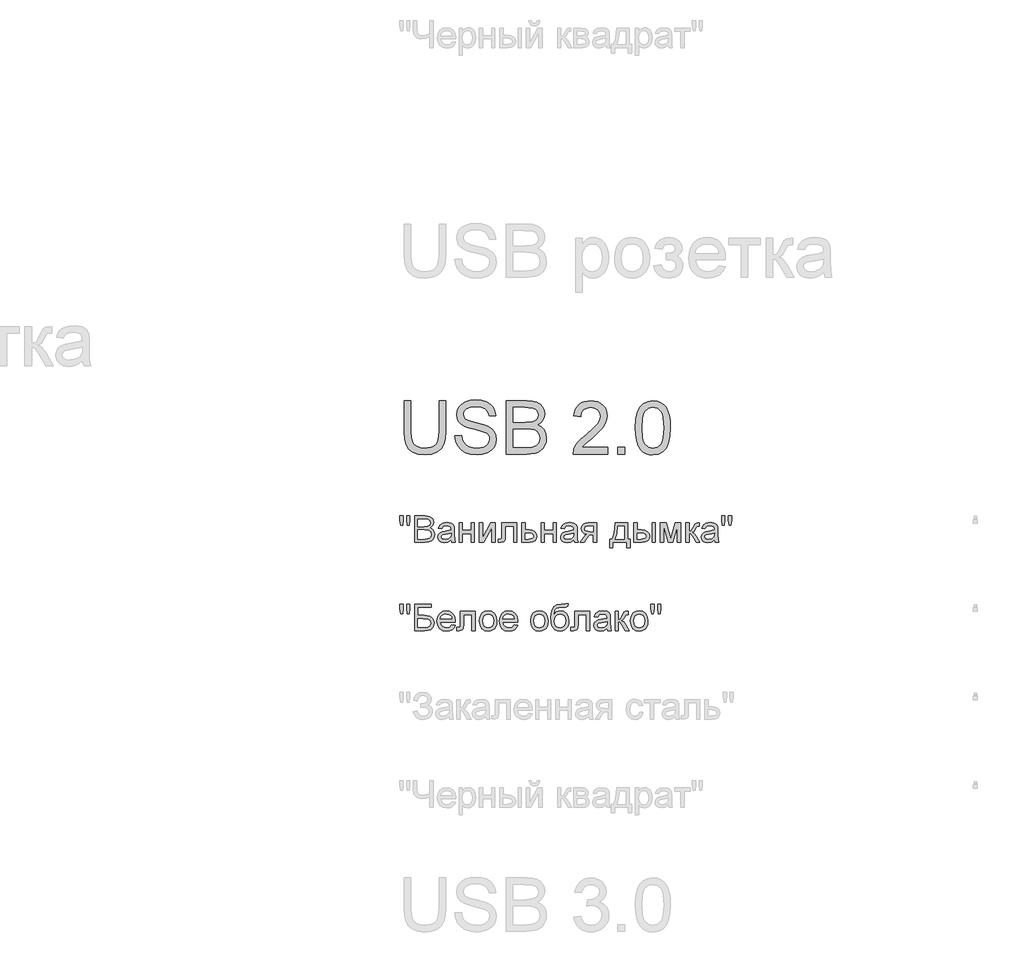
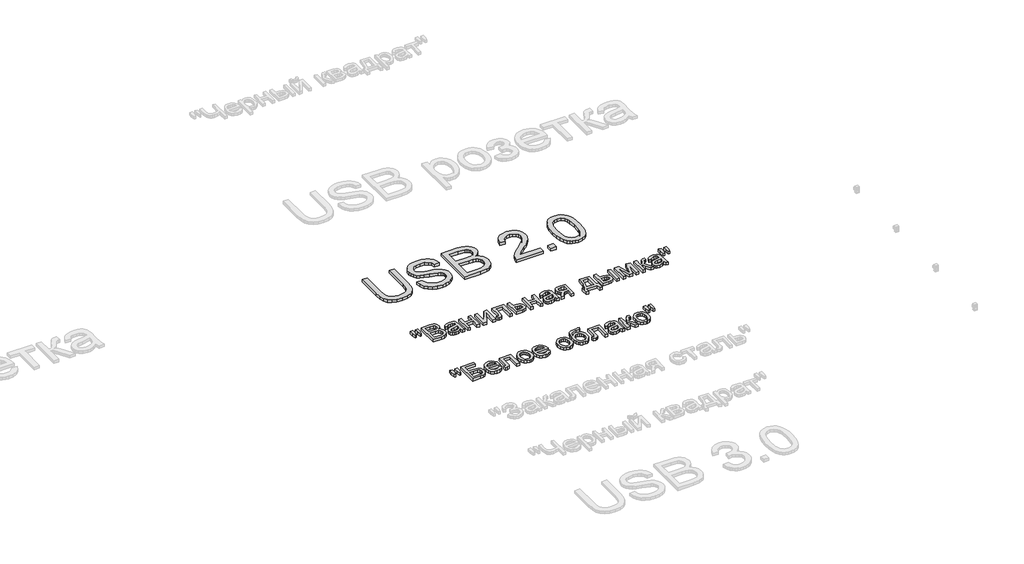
# One storey, part 59 of 168: 3 proxies.
"""IFC4 building model written with IfcOpenShell, lengths in millimetres."""

import ifcopenshell
import ifcopenshell.guid

model = None  # the IFC model being written
_history = None  # IfcOwnerHistory: only IFC2X3 demands one
_inside = {}  # id of a spatial element -> (the spatial element, [elements in it])
_under = {}  # id of a project, library or spatial element -> (it, [spatial elements below it])
_declared = {}  # id of a project -> (the project, [libraries it declares])
_typed = {}  # id of a type object -> (the type object, [elements of that type])
_made_of = {}  # id of a material, layer set ... -> (it, [elements and type objects made of it])


def new_model(schema):
    """Start an empty IFC model of exactly this schema.

    Asked for "IFC4X3", IfcOpenShell would pick the latest addendum, in which some entities
    have other attributes; the version numbers below select the first issue.
    IFC2X3 requires an IfcOwnerHistory on every rooted entity: one is made here for all.
    """
    global model, _history
    if schema == "IFC4X3":
        model = ifcopenshell.file(schema_version=(4, 3, 0, 0))
    else:
        model = ifcopenshell.file(schema=schema)
    _inside.clear()
    _under.clear()
    _declared.clear()
    _typed.clear()
    _made_of.clear()
    _history = None
    if model.schema == "IFC2X3":
        org = make("IfcOrganization", Name="unknown")
        user = make(
            "IfcPersonAndOrganization",
            ThePerson=make("IfcPerson", FamilyName="unknown"),
            TheOrganization=org,
        )
        app = make(
            "IfcApplication",
            ApplicationDeveloper=org,
            Version="unknown",
            ApplicationFullName="unknown",
            ApplicationIdentifier="unknown",
        )
        _history = make(
            "IfcOwnerHistory",
            OwningUser=user,
            OwningApplication=app,
            ChangeAction="ADDED",
            CreationDate=0,
        )
    return model


def make(cls, **values):
    """One entity of the class cls with the attributes given. An attribute that is None is left unset."""
    return model.create_entity(
        cls, **{name: value for name, value in values.items() if value is not None}
    )


def rooted(cls, **values):
    """An entity with a GlobalId (a new one), such as an element, a storey or a relation."""
    return make(cls, GlobalId=ifcopenshell.guid.new(), OwnerHistory=_history, **values)


def si_unit(unit_type, name, prefix=None):
    """IfcSIUnit, for example si_unit("LENGTHUNIT", "METRE", prefix="MILLI")."""
    return make("IfcSIUnit", UnitType=unit_type, Prefix=prefix, Name=name)


def assignment(units):
    """IfcUnitAssignment: the units of a project."""
    return None if units is None else make("IfcUnitAssignment", Units=units)


def point(xyz):
    """IfcCartesianPoint."""
    return None if xyz is None else make("IfcCartesianPoint", Coordinates=xyz)


def direction(xyz):
    """IfcDirection."""
    return None if xyz is None else make("IfcDirection", DirectionRatios=xyz)


def frame(location, z_axis=None, x_axis=None):
    """IfcAxis2Placement3D, a coordinate frame: its origin and axes. An axis left out is left unset."""
    return make(
        "IfcAxis2Placement3D",
        Location=point(location),
        Axis=direction(z_axis),
        RefDirection=direction(x_axis),
    )


def origin():
    """The frame at (0, 0, 0) with its axes left unset."""
    return frame((0.0, 0.0, 0.0))


def origin_with_axes():
    """The frame at (0, 0, 0) with the z axis (0, 0, 1) and the x axis (1, 0, 0) written out."""
    return frame((0.0, 0.0, 0.0), z_axis=(0.0, 0.0, 1.0), x_axis=(1.0, 0.0, 0.0))


def place(relative_to, where):
    """IfcLocalPlacement: puts the frame where relative to a parent placement (None: the world)."""
    return make(
        "IfcLocalPlacement", PlacementRelTo=relative_to, RelativePlacement=where
    )


def context(
    kind, dimensions, precision=None, world=None, true_north=None, identifier=None
):
    """IfcGeometricRepresentationContext, for example the 3D "Model" context."""
    return make(
        "IfcGeometricRepresentationContext",
        ContextIdentifier=identifier,
        ContextType=kind,
        CoordinateSpaceDimension=dimensions,
        Precision=precision,
        WorldCoordinateSystem=world,
        TrueNorth=true_north,
    )


def project(units=None, contexts=None):
    """IfcProject with its units and contexts."""
    return rooted(
        "IfcProject",
        Name="project",
        RepresentationContexts=contexts,
        UnitsInContext=assignment(units),
    )


def spatial(cls, under=None, at=None, **own):
    """A site, building, storey or space (cls), placed at a placement, below another one or the project."""
    s = rooted(cls, ObjectPlacement=at, **own)
    if under is not None:
        _under.setdefault(under.id(), (under, []))[1].append(s)
    return s


def polyline(points):
    """IfcPolyline through the points."""
    return make("IfcPolyline", Points=[point(p) for p in points])


def outline(outer, holes=None, kind="AREA"):
    """IfcArbitraryClosedProfileDef: a profile drawn as a closed curve; with holes, ...WithVoids."""
    if holes is None:
        return make("IfcArbitraryClosedProfileDef", ProfileType=kind, OuterCurve=outer)
    return make(
        "IfcArbitraryProfileDefWithVoids",
        ProfileType=kind,
        OuterCurve=outer,
        InnerCurves=holes,
    )


def extrude(swept, where, along, depth):
    """IfcExtrudedAreaSolid: the profile swept, set in the frame where, extruded along a direction by depth."""
    return make(
        "IfcExtrudedAreaSolid",
        SweptArea=swept,
        Position=where,
        ExtrudedDirection=direction(along),
        Depth=depth,
    )


def shape(context_of_items, identifier, shape_type, items):
    """IfcShapeRepresentation: the items that make up one representation, for example the "Body"."""
    return make(
        "IfcShapeRepresentation",
        ContextOfItems=context_of_items,
        RepresentationIdentifier=identifier,
        RepresentationType=shape_type,
        Items=items,
    )


def made_of(thing, what):
    """Note that an element or type object is made of a material, layer set ...; save() writes the relation."""
    if what is not None:
        _made_of.setdefault(what.id(), (what, []))[1].append(thing)
    return thing


def element(
    cls,
    number,
    at=None,
    inside=None,
    cuts=None,
    type_object=None,
    material=None,
    context=None,
    identifier="Body",
    shape_type=None,
    held_by="IfcProductDefinitionShape",
    body=None,
    shapes=None,
    **own,
):
    """One element of the class cls, such as IfcWall. Its Tag is "e" and its number.

    at: its placement. inside: the storey or other place that contains it. cuts: it is an
    opening in that element (IfcRelVoidsElement). A single representation is given by context,
    identifier, shape_type and body (its items); several are given by shapes. held_by: the class
    of the entity that holds the representations. save() writes the other relations.
    """
    e = rooted(cls, Tag="e%d" % number, ObjectPlacement=at, **own)
    if body is not None:
        shapes = [shape(context, identifier, shape_type, body)]
    if shapes is not None:
        e.Representation = make(held_by, Representations=shapes)
    if inside is not None:
        _inside.setdefault(inside.id(), (inside, []))[1].append(e)
    if cuts is not None:
        rooted(
            "IfcRelVoidsElement", RelatingBuildingElement=cuts, RelatedOpeningElement=e
        )
    if type_object is not None:
        _typed.setdefault(type_object.id(), (type_object, []))[1].append(e)
    return made_of(e, material)


def aggregate(whole, parts):
    """IfcRelAggregates: a whole, such as a stair, and the parts it consists of."""
    return rooted("IfcRelAggregates", RelatingObject=whole, RelatedObjects=parts)


def save(model, path):
    """Write the relations noted so far, then the file.

    IfcRelAggregates (storeys below a building ...), IfcRelContainedInSpatialStructure (elements
    in a storey), IfcRelDefinesByType, IfcRelAssociatesMaterial and IfcRelDeclares: one each for
    every whole, place, type object, material and project.
    """
    for whole, parts in _under.values():
        aggregate(whole, parts)
    for where, things in _inside.values():
        rooted(
            "IfcRelContainedInSpatialStructure",
            RelatedElements=things,
            RelatingStructure=where,
        )
    for kind, things in _typed.values():
        rooted("IfcRelDefinesByType", RelatedObjects=things, RelatingType=kind)
    for what, things in _made_of.values():
        rooted("IfcRelAssociatesMaterial", RelatedObjects=things, RelatingMaterial=what)
    for by, libraries in _declared.values():
        rooted("IfcRelDeclares", RelatingContext=by, RelatedDefinitions=libraries)
    model.write(path)


model = new_model("IFC4")

# Units and contexts
model_context = context("Model", 3, world=origin())
ifc_project = project(units=[si_unit("LENGTHUNIT", "METRE", prefix="MILLI")], contexts=[model_context])

# Site, building, storey
site = spatial("IfcSite", under=ifc_project)
building = spatial("IfcBuilding", under=site)
storey = spatial("IfcBuildingStorey", under=building, Name="Этаж 01", Elevation=0.0)

# Proxies
placement = place(None, origin())
element("IfcBuildingElementProxy", 1, Name="300 мм Arial 2", ObjectType="300 мм Arial 2", at=placement, inside=storey, context=model_context, shape_type="SweptSolid", body=[
    extrude(outline(polyline([(60396.8678623, -46765.4933673), (60434.5389786, -46765.4933673), (60434.5389786, -46939.3543982), (60431.9821987, -46980.069738), (60424.3118591, -47011.4224811), (60409.9828554, -47035.6107222), (60387.4500832, -47054.8325565), (60356.6583602, -47067.3865296), (60317.5525041, -47071.5711873), (60279.3019737, -47067.9291555), (60248.7217828, -47057.0030603), (60225.8027345, -47039.1699805), (60210.5356317, -47014.8069954), (60201.9547842, -46982.1298772), (60199.0945017, -46939.3543982), (60199.0945017, -46765.4933673), (60236.765618, -46765.4933673), (60236.765618, -46938.030023), (60238.623422, -46971.8843636), (60244.1968343, -46995.4564025), (60254.295195, -47011.781166), (60269.7278447, -47023.8936807), (60289.8509899, -47031.3984734), (60314.020837, -47033.900071), (60352.3357467, -47028.9520581), (60366.678546, -47022.7670421), (60377.8115749, -47014.1080196), (60386.1487006, -47001.9311256), (60392.1037904, -46985.1924948), (60396.8678623, -46938.030023), (60396.8678623, -46765.4933673)])), origin_with_axes(), (0.0, 0.0, 1.0), 20.0),
    extrude(outline(polyline([(60486.3367635, -46963.2667279), (60524.0078798, -46963.2667279), (60528.3304932, -46984.1716223), (60536.1479856, -47000.9746324), (60548.3432738, -47014.3103547), (60565.7992744, -47024.8133857), (60587.1364302, -47031.6283996), (60610.9751835, -47033.900071), (60631.9628513, -47032.1802226), (60650.3385569, -47027.0206777), (60665.2285807, -47018.8536974), (60675.7592028, -47008.1115431), (60682.0223938, -46995.7782992), (60684.1101241, -46982.83805), (60682.5466256, -46970.2288947), (60677.8561302, -46959.3303905), (60668.3279865, -46950.0321731), (60652.2515433, -46942.2238778), (60597.4003378, -46927.8396918), (60561.3938876, -46918.3207451), (60538.3552776, -46909.261651), (60519.6024929, -46896.5881163), (60506.3127558, -46881.229043), (60498.3940959, -46863.5155249), (60495.7545426, -46843.7786559), (60499.0194953, -46821.7149332), (60508.8143534, -46801.1411326), (60524.8815995, -46783.703526), (60546.9637163, -46771.0483854), (60573.469614, -46763.3504547), (60602.8082032, -46760.7844777), (60634.5932075, -46763.4700163), (60662.4050864, -46771.526632), (60685.2505583, -46784.7887779), (60702.1363419, -46803.0909072), (60712.8233138, -46825.2925856), (60717.0723509, -46850.253379), (60679.4012346, -46850.253379), (60672.4850531, -46827.7757891), (60658.0640788, -46811.5521931), (60635.5313066, -46801.7297438), (60604.2797311, -46798.4555941), (60572.2923917, -46801.6929556), (60550.3482307, -46811.4050403), (60537.6563018, -46825.6972558), (60533.4256589, -46842.6750099), (60536.4238971, -46857.1511664), (60545.4186119, -46868.7946315), (60566.6821912, -46879.205692), (60606.9284815, -46889.8374817), (60648.4623588, -46899.9358424), (60673.588699, -46908.7466162), (60695.0638105, -46922.4134323), (60710.0458048, -46939.2808218), (60718.8473815, -46959.1648436), (60721.7812404, -46981.8815568), (60718.4059231, -47005.1041078), (60708.2799712, -47026.9471013), (60691.8172519, -47045.7458712), (60669.4316325, -47059.8357516), (60642.5118675, -47068.6373284), (60612.4467114, -47071.5711873), (60575.5389503, -47068.4074021), (60545.1610945, -47058.9160466), (60520.9636563, -47043.0603326), (60502.5971477, -47020.8034719), (60490.8065297, -46993.6905689), (60486.3367635, -46963.2667279)])), origin_with_axes(), (0.0, 0.0, 1.0), 20.0),
    extrude(outline(polyline([(60778.2879149, -47066.8622977), (60778.2879149, -46765.4933673), (60893.2878266, -46765.4933673), (60924.9164811, -46767.7098563), (60949.61056, -46774.3593234), (60968.5380887, -46785.6073154), (60982.8670924, -46801.6193792), (60991.8893983, -46820.4549374), (60994.8968336, -46840.1734123), (60992.3676449, -46858.3191917), (60984.7800788, -46875.3797192), (60972.0789529, -46890.3065312), (60954.209085, -46902.0511639), (60975.5554377, -46913.1979883), (60991.3283783, -46930.1573483), (61001.0680541, -46951.8072037), (61004.3146127, -46977.0255145), (61002.0981237, -46998.0407735), (60995.4486566, -47017.5293222), (60985.5250398, -47034.1024061), (60973.4861015, -47046.3712706), (60958.7432305, -47055.2556208), (60940.7078157, -47061.6751616), (60892.4049098, -47066.8622977), (60778.2879149, -47066.8622977)]), holes=[polyline([(60815.9590312, -46887.9244953), (60884.7529643, -46887.9244953), (60924.9256781, -46884.6871337), (60938.9879674, -46879.1045244), (60949.0955252, -46870.7444061), (60955.1931693, -46859.7355374), (60957.2257173, -46846.206677), (60955.331125, -46833.0732898), (60949.6473482, -46821.6321597), (60940.4319042, -46812.7018243), (60927.9423105, -46807.1008209), (60879.5290399, -46803.1644836), (60815.9590312, -46803.1644836), (60815.9590312, -46887.9244953)]), polyline([(60815.9590312, -47029.1911814), (60893.2142502, -47029.1911814), (60921.1732818, -47027.7196534), (60944.8280941, -47019.515885), (60960.4998671, -47002.7772542), (60965.1075891, -46990.949848), (60966.6434964, -46977.3933965), (60964.8408746, -46961.6480471), (60959.4330093, -46948.1099897), (60949.9876391, -46937.5241853), (60936.0725026, -46930.6355949), (60916.3632247, -46926.8556074), (60889.5354302, -46925.5956116), (60815.9590312, -46925.5956116), (60815.9590312, -47029.1911814)])]), origin_with_axes(), (0.0, 0.0, 1.0), 20.0),
    extrude(outline(polyline([(61352.7724385, -47029.1911814), (61352.7724385, -47066.8622977), (61154.9990779, -47066.8622977), (61159.0457799, -47040.8898289), (61168.3348003, -47020.5919398), (61181.92804, -47000.901056), (61201.5913326, -46980.2904672), (61229.0905118, -46957.2334632), (61269.7414722, -46921.1258453), (61294.1320485, -46894.4727948), (61306.3273366, -46872.8413335), (61310.3924327, -46851.7984834), (61306.5572629, -46832.9353341), (61295.0517535, -46817.254364), (61277.3658266, -46806.6869537), (61254.9894042, -46803.1644836), (61231.4909418, -46806.6041802), (61213.2347978, -46816.9232702), (61201.4533769, -46833.3124131), (61197.3790838, -46854.9622685), (61159.7079675, -46850.253379), (61168.840638, -46813.8146674), (61177.3869966, -46799.27873), (61188.5867041, -46787.198405), (61202.1822431, -46777.702451), (61217.9160962, -46770.9196267), (61255.7987446, -46765.4933673), (61275.9885684, -46767.0016835), (61293.9573046, -46771.526632), (61309.7049532, -46779.0682129), (61323.2315143, -46789.6264262), (61334.0955295, -46802.4195226), (61341.8555403, -46816.6657528), (61346.5115468, -46832.365117), (61348.063549, -46849.517615), (61346.3896859, -46867.5346357), (61341.3680967, -46885.2389567), (61332.4561553, -46903.2467804), (61319.111236, -46922.174309), (61297.8384596, -46944.7714606), (61265.1429473, -46973.788153), (61221.8064482, -47010.0245295), (61204.8103001, -47029.1911814), (61352.7724385, -47029.1911814)])), origin_with_axes(), (0.0, 0.0, 1.0), 20.0),
    extrude(outline(polyline([(61409.279113, -47066.8622977), (61409.279113, -47029.1911814), (61446.9502293, -47029.1911814), (61446.9502293, -47066.8622977), (61409.279113, -47066.8622977)])), origin_with_axes(), (0.0, 0.0, 1.0), 20.0),
    extrude(outline(polyline([(61508.1657933, -46918.6058537), (61510.9341053, -46870.3673271), (61519.2390413, -46831.8960674), (61532.997828, -46802.6034635), (61552.1276917, -46781.9009043), (61576.7665883, -46769.5952515), (61607.0524736, -46765.4933673), (61630.2658275, -46767.9213885), (61651.0511602, -46775.205452), (61668.4335845, -46787.0604493), (61681.438213, -46803.2012718), (61691.2606623, -46823.4899638), (61699.0965488, -46847.7885696), (61704.2285026, -46878.644672), (61705.9391539, -46918.6058537), (61703.198433, -46966.5684688), (61694.9762704, -47004.9477579), (61681.3002573, -47034.267953), (61662.1979847, -47055.0532857), (61637.5039057, -47067.4417119), (61607.0524736, -47071.5711873), (61586.3039291, -47069.7777625), (61567.9098293, -47064.3974884), (61551.8701743, -47055.4303647), (61538.1849641, -47042.8763916), (61525.0515769, -47020.1826711), (61515.670586, -46991.9063412), (61510.0419915, -46958.0474021), (61508.1657933, -46918.6058537)]), holes=[polyline([(61545.8369096, -46918.5322773), (61550.2514935, -46977.7888697), (61555.7697235, -46998.0568683), (61563.4952454, -47012.0846687), (61583.2137203, -47028.4462204), (61607.0524736, -47033.900071), (61630.8912269, -47028.4278263), (61650.6097018, -47012.0110923), (61658.3352237, -46997.9602993), (61663.8534537, -46977.6968992), (61668.2680376, -46918.5322773), (61664.0006065, -46860.6092571), (61658.6663175, -46840.4079371), (61651.198313, -46826.0467437), (61631.5166263, -46808.8850486), (61606.6110152, -46803.1644836), (61583.0297793, -46808.2044669), (61564.0838566, -46823.3244169), (61556.1008173, -46838.9594017), (61550.3986463, -46860.03904), (61545.8369096, -46918.5322773)])]), origin_with_axes(), (0.0, 0.0, 1.0), 20.0),
])
element("IfcBuildingElementProxy", 2, Name="150", ObjectType="150", at=placement, inside=storey, context=model_context, shape_type="SweptSolid", body=[
    extrude(outline(polyline([(60180.1485789, -47470.3300622), (60175.550054, -47441.2305964), (60175.550054, -47416.1778325), (60194.3856121, -47416.1778325), (60194.3856121, -47441.2305964), (60190.2653338, -47470.3300622), (60180.1485789, -47470.3300622)])), origin_with_axes(), (0.0, 0.0, 1.0), 20.0),
    extrude(outline(polyline([(60217.7093306, -47470.3300622), (60213.2211703, -47441.2305964), (60213.2211703, -47416.1778325), (60232.0567284, -47416.1778325), (60232.0567284, -47441.2305964), (60227.6421445, -47470.3300622), (60217.7093306, -47470.3300622)])), origin_with_axes(), (0.0, 0.0, 1.0), 20.0),
    extrude(outline(polyline([(60257.9556209, -47566.8622977), (60257.9556209, -47416.1778325), (60315.4555767, -47416.1778325), (60343.6169435, -47420.6108106), (60353.0807078, -47426.2348066), (60360.2452096, -47434.2408385), (60366.2600803, -47453.517855), (60361.2017028, -47471.1210085), (60345.9162059, -47484.4567308), (60356.5893823, -47490.030143), (60364.4758526, -47498.509823), (60369.3456905, -47509.3347507), (60370.9689698, -47521.9439061), (60366.5359918, -47542.19581), (60355.5547142, -47556.6167842), (60339.1655713, -47564.2687297), (60315.0141183, -47566.8622977), (60257.9556209, -47566.8622977)]), holes=[polyline([(60276.791179, -47477.3933965), (60311.1881456, -47477.3933965), (60331.2745025, -47475.7747157), (60343.3594261, -47468.8033519), (60347.4245221, -47456.5344874), (60343.6353376, -47444.2472287), (60332.7828187, -47436.9815593), (60308.5761834, -47435.0133907), (60276.791179, -47435.0133907), (60276.791179, -47477.3933965)]), polyline([(60276.791179, -47548.0267396), (60315.4187885, -47548.0267396), (60329.3983043, -47547.2909756), (60341.2257105, -47543.1890913), (60349.061597, -47534.819776), (60352.1334117, -47522.1278471), (60348.5281681, -47507.4861437), (60336.8479148, -47498.7489463), (60313.5793786, -47496.2289547), (60276.791179, -47496.2289547), (60276.791179, -47548.0267396)])]), origin_with_axes(), (0.0, 0.0, 1.0), 20.0),
    extrude(outline(polyline([(60465.1467606, -47552.7356291), (60446.8814195, -47565.5011344), (60426.7030921, -47569.2167425), (60410.9623412, -47566.9818594), (60399.3510657, -47560.27721), (60392.1911624, -47550.0960758), (60389.804528, -47537.4317381), (60393.4097715, -47522.5325173), (60402.8827329, -47511.7167867), (60416.0713024, -47505.5363691), (60432.3684748, -47502.7036778), (60465.036396, -47496.2289547), (60465.1467606, -47492.0350999), (60463.8499765, -47483.6289963), (60459.9596244, -47478.1291605), (60451.2592153, -47474.0456704), (60439.1375035, -47472.684507), (60420.0812162, -47476.3081446), (60410.9945309, -47489.1656204), (60392.1589727, -47486.8111756), (60400.3075589, -47468.4170758), (60416.7150959, -47457.6381334), (60441.5655247, -47453.8489488), (60464.3926025, -47457.196675), (60477.2868664, -47465.6027786), (60483.0626137, -47478.3866779), (60483.9823187, -47494.8677913), (60483.9823187, -47518.3018744), (60484.9388119, -47551.0249778), (60488.6912083, -47566.8622977), (60469.8556501, -47566.8622977), (60465.1467606, -47552.7356291)]), holes=[polyline([(60465.1467606, -47515.0645128), (60434.7597078, -47520.8402601), (60418.5545059, -47523.8936807), (60411.2152601, -47528.8600876), (60408.6400861, -47536.1073629), (60414.2502865, -47546.2976942), (60430.7130058, -47550.3811843), (60449.7692932, -47545.8746299), (60462.0565518, -47534.9669288), (60465.036396, -47520.3988017), (60465.1467606, -47515.0645128)])]), origin_with_axes(), (0.0, 0.0, 1.0), 20.0),
    extrude(outline(polyline([(60509.8812112, -47456.2033936), (60528.7167693, -47456.2033936), (60528.7167693, -47498.5833994), (60578.1601095, -47498.5833994), (60578.1601095, -47456.2033936), (60596.9956676, -47456.2033936), (60596.9956676, -47566.8622977), (60578.1601095, -47566.8622977), (60578.1601095, -47517.4189576), (60528.7167693, -47517.4189576), (60528.7167693, -47566.8622977), (60509.8812112, -47566.8622977), (60509.8812112, -47456.2033936)])), origin_with_axes(), (0.0, 0.0, 1.0), 20.0),
    extrude(outline(polyline([(60625.2490049, -47456.2033936), (60644.084563, -47456.2033936), (60644.084563, -47540.5955233), (60690.364118, -47456.2033936), (60714.7179061, -47456.2033936), (60714.7179061, -47566.8622977), (60695.8823479, -47566.8622977), (60695.8823479, -47482.9852028), (60649.8970985, -47566.8622977), (60625.2490049, -47566.8622977), (60625.2490049, -47456.2033936)])), origin_with_axes(), (0.0, 0.0, 1.0), 20.0),
    extrude(outline(polyline([(60752.3890224, -47456.2033936), (60837.1490341, -47456.2033936), (60837.1490341, -47566.7519331), (60818.3134759, -47566.7519331), (60818.3134759, -47475.0389517), (60771.2245806, -47475.0389517), (60771.2245806, -47527.830018), (60769.9553877, -47552.1838061), (60762.9840239, -47562.4661079), (60746.5029105, -47566.8622977), (60731.1990195, -47565.9058045), (60731.1990195, -47548.0267396), (60739.6235172, -47548.0267396), (60748.1399854, -47546.8679113), (60751.5428938, -47543.1890913), (60752.3890224, -47526.7631603), (60752.3890224, -47456.2033936)])), origin_with_axes(), (0.0, 0.0, 1.0), 20.0),
    extrude(outline(polyline([(60865.4023713, -47456.2033936), (60884.2379295, -47456.2033936), (60884.2379295, -47496.2289547), (60905.9429672, -47496.2289547), (60924.7601312, -47498.587998), (60938.6844648, -47505.6651278), (60947.2929034, -47516.8901272), (60950.162383, -47531.692779), (60947.7205663, -47545.1710556), (60940.395116, -47556.5432078), (60927.6985887, -47564.2825252), (60909.1435405, -47566.8622977), (60865.4023713, -47566.8622977), (60865.4023713, -47456.2033936)]), holes=[polyline([(60884.2379295, -47548.0267396), (60901.8226888, -47548.0267396), (60924.539402, -47544.0720081), (60929.6299692, -47539.0090322), (60931.3268249, -47531.7295672), (60926.3052356, -47520.1412843), (60918.2348244, -47516.3337057), (60904.066769, -47515.0645128), (60884.2379295, -47515.0645128), (60884.2379295, -47548.0267396)])]), origin_with_axes(), (0.0, 0.0, 1.0), 20.0),
    extrude(outline(polyline([(60973.7068307, -47456.2033936), (60992.5423889, -47456.2033936), (60992.5423889, -47498.5833994), (61041.985729, -47498.5833994), (61041.985729, -47456.2033936), (61060.8212872, -47456.2033936), (61060.8212872, -47566.8622977), (61041.985729, -47566.8622977), (61041.985729, -47517.4189576), (60992.5423889, -47517.4189576), (60992.5423889, -47566.8622977), (60973.7068307, -47566.8622977), (60973.7068307, -47456.2033936)])), origin_with_axes(), (0.0, 0.0, 1.0), 20.0),
    extrude(outline(polyline([(61159.7079675, -47552.7356291), (61141.4426264, -47565.5011344), (61121.264299, -47569.2167425), (61105.5235481, -47566.9818594), (61093.9122726, -47560.27721), (61086.7523693, -47550.0960758), (61084.3657349, -47537.4317381), (61087.9709784, -47522.5325173), (61097.4439398, -47511.7167867), (61110.6325093, -47505.5363691), (61126.9296817, -47502.7036778), (61159.5976029, -47496.2289547), (61159.7079675, -47492.0350999), (61158.4111834, -47483.6289963), (61154.5208313, -47478.1291605), (61145.8204221, -47474.0456704), (61133.6987104, -47472.684507), (61114.6424231, -47476.3081446), (61105.5557378, -47489.1656204), (61086.7201796, -47486.8111756), (61094.8687658, -47468.4170758), (61111.2763028, -47457.6381334), (61136.1267316, -47453.8489488), (61158.9538094, -47457.196675), (61171.8480733, -47465.6027786), (61177.6238206, -47478.3866779), (61178.5435256, -47494.8677913), (61178.5435256, -47518.3018744), (61179.5000188, -47551.0249778), (61183.2524152, -47566.8622977), (61164.416857, -47566.8622977), (61159.7079675, -47552.7356291)]), holes=[polyline([(61159.7079675, -47515.0645128), (61129.3209147, -47520.8402601), (61113.1157128, -47523.8936807), (61105.776467, -47528.8600876), (61103.201293, -47536.1073629), (61108.8114934, -47546.2976942), (61125.2742127, -47550.3811843), (61144.3305001, -47545.8746299), (61156.6177587, -47534.9669288), (61159.5976029, -47520.3988017), (61159.7079675, -47515.0645128)])]), origin_with_axes(), (0.0, 0.0, 1.0), 20.0),
    extrude(outline(polyline([(61289.2024298, -47456.2033936), (61289.2024298, -47566.8622977), (61270.3668716, -47566.8622977), (61270.3668716, -47524.4822919), (61260.1029639, -47524.4822919), (61246.1234481, -47526.8735249), (61232.9900609, -47542.949968), (61217.9804755, -47566.8622977), (61196.2018614, -47566.8622977), (61215.1109959, -47536.6223977), (61223.4619172, -47525.7698789), (61231.1506509, -47520.9506247), (61218.2747811, -47517.0050903), (61209.224884, -47509.5094947), (61203.872201, -47499.5398926), (61202.0879733, -47488.172339), (61204.5251915, -47475.278075), (61211.8368462, -47465.0693497), (61223.7654199, -47458.4198826), (61240.0533952, -47456.2033936), (61289.2024298, -47456.2033936)]), holes=[polyline([(61270.3668716, -47475.0389517), (61245.5348369, -47475.0389517), (61232.7095509, -47476.1288021), (61225.4300859, -47479.3983534), (61220.9235315, -47489.6070787), (61222.583599, -47496.7853762), (61227.5638015, -47501.7655787), (61251.0898551, -47505.6467337), (61270.3668716, -47505.6467337), (61270.3668716, -47475.0389517)])]), origin_with_axes(), (0.0, 0.0, 1.0), 20.0),
    extrude(outline(polyline([(61392.7979996, -47456.2033936), (61463.4313427, -47456.2033936), (61463.4313427, -47548.0267396), (61477.5580113, -47548.0267396), (61477.5580113, -47597.4700797), (61458.7224531, -47597.4700797), (61458.7224531, -47566.8622977), (61381.0257758, -47566.8622977), (61381.0257758, -47597.4700797), (61362.1902176, -47597.4700797), (61362.1902176, -47548.0267396), (61373.9624415, -47548.0267396), (61382.5202964, -47532.5619002), (61388.5121744, -47512.1030628), (61392.7979996, -47456.2033936)]), holes=[polyline([(61409.279113, -47475.0389517), (61404.864529, -47517.9523865), (61395.1524444, -47548.0267396), (61444.5957845, -47548.0267396), (61444.5957845, -47475.0389517), (61409.279113, -47475.0389517)])]), origin_with_axes(), (0.0, 0.0, 1.0), 20.0),
    extrude(outline(polyline([(61602.3435841, -47456.2033936), (61621.1791422, -47456.2033936), (61621.1791422, -47566.8622977), (61602.3435841, -47566.8622977), (61602.3435841, -47456.2033936)])), origin_with_axes(), (0.0, 0.0, 1.0), 20.0),
    extrude(outline(polyline([(61498.7480142, -47456.2033936), (61517.5835724, -47456.2033936), (61517.5835724, -47496.2289547), (61540.8705027, -47496.2289547), (61560.9982463, -47498.587998), (61575.9112627, -47505.6651278), (61585.1405023, -47516.8901272), (61588.2169154, -47531.692779), (61585.637143, -47545.1710556), (61577.8978255, -47556.5432078), (61564.4931253, -47564.2825252), (61544.9172046, -47566.8622977), (61498.7480142, -47566.8622977), (61498.7480142, -47456.2033936)]), holes=[polyline([(61517.5835724, -47548.0267396), (61536.9341653, -47548.0267396), (61561.9133528, -47544.0720081), (61567.5143562, -47539.0090322), (61569.3813573, -47531.7295672), (61563.8447333, -47520.1412843), (61554.9649816, -47516.3337057), (61539.3989747, -47515.0645128), (61517.5835724, -47515.0645128), (61517.5835724, -47548.0267396)])]), origin_with_axes(), (0.0, 0.0, 1.0), 20.0),
    extrude(outline(polyline([(61649.4324794, -47456.2033936), (61681.8428832, -47456.2033936), (61706.8220707, -47544.789378), (61733.7510327, -47456.2033936), (61764.8002731, -47456.2033936), (61764.8002731, -47566.8622977), (61745.964715, -47566.8622977), (61745.964715, -47477.7612785), (61718.8886001, -47566.8622977), (61694.1669301, -47566.8622977), (61668.2680376, -47473.4938474), (61668.2680376, -47566.8622977), (61649.4324794, -47566.8622977), (61649.4324794, -47456.2033936)])), origin_with_axes(), (0.0, 0.0, 1.0), 20.0),
    extrude(outline(polyline([(61793.0536104, -47456.2033936), (61811.8891685, -47456.2033936), (61811.8891685, -47503.292289), (61824.5075209, -47499.9077746), (61834.845005, -47480.1892997), (61843.4350496, -47463.1747574), (61851.0134187, -47457.6381334), (61864.7905994, -47456.2033936), (61868.395843, -47456.2033936), (61868.395843, -47475.1493163), (61863.3190714, -47475.0389517), (61854.1220216, -47477.0255145), (61847.6472984, -47489.4231377), (61840.0505352, -47502.8324365), (61829.4003515, -47509.3991301), (61841.2829399, -47516.7291788), (61852.9447992, -47532.1710256), (61873.1047325, -47566.8622977), (61851.6940004, -47566.8622977), (61831.9387372, -47532.9067896), (61822.0059234, -47518.5409977), (61811.8891685, -47515.0645128), (61811.8891685, -47566.8622977), (61793.0536104, -47566.8622977), (61793.0536104, -47456.2033936)])), origin_with_axes(), (0.0, 0.0, 1.0), 20.0),
    extrude(outline(polyline([(61955.5102994, -47552.7356291), (61937.2449584, -47565.5011344), (61917.0666309, -47569.2167425), (61901.3258801, -47566.9818594), (61889.7146046, -47560.27721), (61882.5547013, -47550.0960758), (61880.1680668, -47537.4317381), (61883.7733104, -47522.5325173), (61893.2462717, -47511.7167867), (61906.4348413, -47505.5363691), (61922.7320137, -47502.7036778), (61955.3999348, -47496.2289547), (61955.5102994, -47492.0350999), (61954.2135154, -47483.6289963), (61950.3231633, -47478.1291605), (61941.6227541, -47474.0456704), (61929.5010424, -47472.684507), (61910.444755, -47476.3081446), (61901.3580697, -47489.1656204), (61882.5225116, -47486.8111756), (61890.6710978, -47468.4170758), (61907.0786348, -47457.6381334), (61931.9290635, -47453.8489488), (61954.7561413, -47457.196675), (61967.6504053, -47465.6027786), (61973.4261526, -47478.3866779), (61974.3458576, -47494.8677913), (61974.3458576, -47518.3018744), (61975.3023508, -47551.0249778), (61979.0547471, -47566.8622977), (61960.219189, -47566.8622977), (61955.5102994, -47552.7356291)]), holes=[polyline([(61955.5102994, -47515.0645128), (61925.1232466, -47520.8402601), (61908.9180447, -47523.8936807), (61901.5787989, -47528.8600876), (61899.003625, -47536.1073629), (61904.6138254, -47546.2976942), (61921.0765447, -47550.3811843), (61940.132832, -47545.8746299), (61952.4200907, -47534.9669288), (61955.3999348, -47520.3988017), (61955.5102994, -47515.0645128)])]), origin_with_axes(), (0.0, 0.0, 1.0), 20.0),
    extrude(outline(polyline([(62000.1343854, -47470.3300622), (61995.5358605, -47441.2305964), (61995.5358605, -47416.1778325), (62014.3714187, -47416.1778325), (62014.3714187, -47441.2305964), (62010.2511403, -47470.3300622), (62000.1343854, -47470.3300622)])), origin_with_axes(), (0.0, 0.0, 1.0), 20.0),
    extrude(outline(polyline([(62037.6951372, -47470.3300622), (62033.2069768, -47441.2305964), (62033.2069768, -47416.1778325), (62052.042535, -47416.1778325), (62052.042535, -47441.2305964), (62047.627951, -47470.3300622), (62037.6951372, -47470.3300622)])), origin_with_axes(), (0.0, 0.0, 1.0), 20.0),
])
element("IfcBuildingElementProxy", 3, Name="150", ObjectType="150", at=placement, inside=storey, context=model_context, shape_type="SweptSolid", body=[
    extrude(outline(polyline([(60180.1485789, -47970.3300622), (60175.550054, -47941.2305964), (60175.550054, -47916.1778325), (60194.3856121, -47916.1778325), (60194.3856121, -47941.2305964), (60190.2653338, -47970.3300622), (60180.1485789, -47970.3300622)])), origin_with_axes(), (0.0, 0.0, 1.0), 20.0),
    extrude(outline(polyline([(60217.7093306, -47970.3300622), (60213.2211703, -47941.2305964), (60213.2211703, -47916.1778325), (60232.0567284, -47916.1778325), (60232.0567284, -47941.2305964), (60227.6421445, -47970.3300622), (60217.7093306, -47970.3300622)])), origin_with_axes(), (0.0, 0.0, 1.0), 20.0),
    extrude(outline(polyline([(60257.9556209, -47916.1778325), (60352.1334117, -47916.1778325), (60352.1334117, -47935.0133907), (60276.791179, -47935.0133907), (60276.791179, -47979.7478413), (60312.0710624, -47979.7478413), (60343.157091, -47983.573814), (60353.5589544, -47989.101241), (60361.6615553, -47998.0315764), (60366.8762826, -48009.5278888), (60368.614525, -48022.7532465), (60363.6665122, -48044.2191609), (60348.8960501, -48060.5347274), (60335.6247071, -48065.2804052), (60315.4555767, -48066.8622977), (60257.9556209, -48066.8622977), (60257.9556209, -47916.1778325)]), holes=[polyline([(60276.791179, -48048.0267396), (60317.1478339, -48048.0267396), (60331.4124583, -48046.4724382), (60341.6119866, -48041.8095339), (60347.7372218, -48034.0380267), (60349.7789669, -48023.1579167), (60345.1068655, -48008.4058487), (60332.102237, -48000.533174), (60303.7201411, -47998.5833994), (60276.791179, -47998.5833994), (60276.791179, -48048.0267396)])]), origin_with_axes(), (0.0, 0.0, 1.0), 20.0),
    extrude(outline(polyline([(60469.6349209, -48033.900071), (60488.1025971, -48036.2545157), (60481.4485315, -48050.1696522), (60470.8305374, -48060.5715156), (60456.4877381, -48067.0554358), (60438.6592569, -48069.2167425), (60416.5587461, -48065.4873388), (60399.5534008, -48054.2991276), (60388.710079, -48036.3786759), (60385.0956384, -48012.4525506), (60388.7468672, -47987.7216835), (60399.7005536, -47969.2264162), (60416.4759726, -47957.6933157), (60437.5923991, -47953.8489488), (60458.0512366, -47957.6841186), (60474.3989927, -47969.189628), (60485.1181544, -47987.6481071), (60488.6912083, -48012.342186), (60488.5808437, -48017.4189576), (60403.9311966, -48017.4189576), (60407.1915508, -48031.518035), (60414.7653213, -48041.8831103), (60425.6960151, -48048.2566658), (60439.0271389, -48050.3811843), (60457.4948151, -48046.444847), (60469.6349209, -48033.900071)]), holes=[polyline([(60403.9311966, -47998.5833994), (60469.8556501, -47998.5833994), (60467.3080673, -47988.6321915), (60462.3140692, -47981.5136749), (60451.3327917, -47974.8917989), (60437.5188227, -47972.684507), (60424.8222954, -47974.445742), (60414.3238629, -47979.7294472), (60407.0260039, -47987.9654053), (60403.9311966, -47998.5833994)])]), origin_with_axes(), (0.0, 0.0, 1.0), 20.0),
    extrude(outline(polyline([(60516.9445455, -47956.2033936), (60601.7045572, -47956.2033936), (60601.7045572, -48066.7519331), (60582.868999, -48066.7519331), (60582.868999, -47975.0389517), (60535.7801036, -47975.0389517), (60535.7801036, -48027.830018), (60534.5109108, -48052.1838061), (60527.539547, -48062.4661079), (60511.0584336, -48066.8622977), (60495.7545426, -48065.9058045), (60495.7545426, -48048.0267396), (60504.1790403, -48048.0267396), (60512.6955084, -48046.8679113), (60516.0984169, -48043.1890913), (60516.9445455, -48026.7631603), (60516.9445455, -47956.2033936)])), origin_with_axes(), (0.0, 0.0, 1.0), 20.0),
    extrude(outline(polyline([(60625.2490049, -48011.5328457), (60629.323298, -47984.852204), (60641.5461773, -47966.0994193), (60656.6477332, -47956.9115664), (60674.7291332, -47953.8489488), (60694.516586, -47957.5783525), (60710.3217163, -47968.7665637), (60720.6821929, -47986.5306656), (60724.1356852, -48009.9877413), (60722.6089749, -48029.0164375), (60718.0288441, -48043.501791), (60710.5286499, -48054.3497114), (60700.2417496, -48062.4661079), (60688.0234688, -48067.5290839), (60674.7291332, -48069.2167425), (60654.7025571, -48065.5011344), (60638.915821, -48054.3543099), (60628.6657089, -48036.2177275), (60625.2490049, -48011.5328457)]), holes=[polyline([(60644.084563, -48011.4960575), (60646.2642638, -48028.5427894), (60652.8033663, -48040.6874938), (60662.6442097, -48047.9577617), (60674.7291332, -48050.3811843), (60686.7588745, -48047.9439661), (60696.5813237, -48040.6323115), (60703.1204262, -48028.3266587), (60705.300127, -48010.9074463), (60703.1066306, -47994.357355), (60696.5261414, -47982.3781975), (60686.6898966, -47975.1079296), (60674.7291332, -47972.684507), (60662.6442097, -47975.0987326), (60652.8033663, -47982.3414093), (60646.2642638, -47994.4585226), (60644.084563, -48011.4960575)])]), origin_with_axes(), (0.0, 0.0, 1.0), 20.0),
    extrude(outline(polyline([(60822.8016363, -48033.900071), (60841.2693124, -48036.2545157), (60834.6152469, -48050.1696522), (60823.9972528, -48060.5715156), (60809.6544535, -48067.0554358), (60791.8259723, -48069.2167425), (60769.7254614, -48065.4873388), (60752.7201162, -48054.2991276), (60741.8767944, -48036.3786759), (60738.2623538, -48012.4525506), (60741.9135826, -47987.7216835), (60752.867269, -47969.2264162), (60769.642688, -47957.6933157), (60790.7591145, -47953.8489488), (60811.217952, -47957.6841186), (60827.5657081, -47969.189628), (60838.2848698, -47987.6481071), (60841.8579236, -48012.342186), (60841.747559, -48017.4189576), (60757.0979119, -48017.4189576), (60760.3582661, -48031.518035), (60767.9320367, -48041.8831103), (60778.8627305, -48048.2566658), (60792.1938543, -48050.3811843), (60810.6615304, -48046.444847), (60822.8016363, -48033.900071)]), holes=[polyline([(60757.0979119, -47998.5833994), (60823.0223655, -47998.5833994), (60820.4747827, -47988.6321915), (60815.4807846, -47981.5136749), (60804.499507, -47974.8917989), (60790.6855381, -47972.684507), (60777.9890107, -47974.445742), (60767.4905783, -47979.7294472), (60760.1927192, -47987.9654053), (60757.0979119, -47998.5833994)])]), origin_with_axes(), (0.0, 0.0, 1.0), 20.0),
    extrude(outline(polyline([(60914.8457115, -48011.5328457), (60918.9200046, -47984.852204), (60931.1428839, -47966.0994193), (60946.2444398, -47956.9115664), (60964.3258398, -47953.8489488), (60984.1132926, -47957.5783525), (60999.9184229, -47968.7665637), (61010.2788995, -47986.5306656), (61013.7323918, -48009.9877413), (61012.2056815, -48029.0164375), (61007.6255507, -48043.501791), (61000.1253565, -48054.3497114), (60989.8384562, -48062.4661079), (60977.6201754, -48067.5290839), (60964.3258398, -48069.2167425), (60944.2992637, -48065.5011344), (60928.5125276, -48054.3543099), (60918.2624155, -48036.2177275), (60914.8457115, -48011.5328457)]), holes=[polyline([(60933.6812696, -48011.4960575), (60935.8609704, -48028.5427894), (60942.4000729, -48040.6874938), (60952.2409163, -48047.9577617), (60964.3258398, -48050.3811843), (60976.3555811, -48047.9439661), (60986.1780303, -48040.6323115), (60992.7171328, -48028.3266587), (60994.8968336, -48010.9074463), (60992.7033372, -47994.357355), (60986.122848, -47982.3781975), (60976.2866032, -47975.1079296), (60964.3258398, -47972.684507), (60952.2409163, -47975.0987326), (60942.4000729, -47982.3414093), (60935.8609704, -47994.4585226), (60933.6812696, -48011.4960575)])]), origin_with_axes(), (0.0, 0.0, 1.0), 20.0),
    extrude(outline(polyline([(61112.6190721, -47913.8233877), (61129.1001855, -47913.8233877), (61124.2441431, -47928.5202734), (61114.6424231, -47933.8361683), (61091.576222, -47935.0133907), (61060.5085875, -47939.3543982), (61053.3808738, -47945.0013868), (61048.5892108, -47953.2603376), (61044.560903, -47977.8716431), (61060.8764695, -47959.8454253), (61070.7954878, -47955.3480679), (61081.9009255, -47953.8489488), (61101.4998388, -47957.661126), (61117.401538, -47969.0976575), (61127.9413572, -47987.0365033), (61131.4546302, -48010.3556233), (61129.7117893, -48028.3358558), (61124.4832664, -48042.766027), (61107.9469707, -48062.3189551), (61096.6529935, -48067.4922957), (61081.9009255, -48069.2167425), (61064.9001788, -48066.995655), (61052.1576662, -48060.3323923), (61042.7812738, -48050.2064404), (61035.8788879, -48037.597285), (61031.6298508, -48018.6099755), (61030.2135052, -47989.3495614), (61033.786559, -47953.2097538), (61044.5057207, -47931.1690238), (61062.6377045, -47919.9256303), (61088.449225, -47916.1778325), (61109.4184987, -47915.7547682), (61112.6190721, -47913.8233877)]), holes=[polyline([(61112.6190721, -48009.7670121), (61110.577327, -47994.9459662), (61104.4520918, -47983.0771733), (61094.6112484, -47975.2826736), (61081.4226789, -47972.684507), (61067.6730893, -47975.4298264), (61057.473561, -47983.6657845), (61051.1551877, -47996.4910706), (61049.0490633, -48013.0043736), (61051.3759169, -48029.011839), (61058.3564778, -48040.7610702), (61068.7491442, -48047.9761558), (61081.3123143, -48050.3811843), (61093.9398638, -48047.5990768), (61103.937057, -48039.252754), (61110.4485683, -48026.3171033), (61112.6190721, -48009.7670121)])]), origin_with_axes(), (0.0, 0.0, 1.0), 20.0),
    extrude(outline(polyline([(61164.416857, -47956.2033936), (61249.1768687, -47956.2033936), (61249.1768687, -48066.7519331), (61230.3413105, -48066.7519331), (61230.3413105, -47975.0389517), (61183.2524152, -47975.0389517), (61183.2524152, -48027.830018), (61181.9832223, -48052.1838061), (61175.0118585, -48062.4661079), (61158.5307451, -48066.8622977), (61143.2268541, -48065.9058045), (61143.2268541, -48048.0267396), (61151.6513518, -48048.0267396), (61160.16782, -48046.8679113), (61163.5707284, -48043.1890913), (61164.416857, -48026.7631603), (61164.416857, -47956.2033936)])), origin_with_axes(), (0.0, 0.0, 1.0), 20.0),
    extrude(outline(polyline([(61348.063549, -48052.7356291), (61329.7982079, -48065.5011344), (61309.6198805, -48069.2167425), (61293.8791296, -48066.9818594), (61282.2678542, -48060.27721), (61275.1079508, -48050.0960758), (61272.7213164, -48037.4317381), (61276.3265599, -48022.5325173), (61285.7995213, -48011.7167867), (61298.9880908, -48005.5363691), (61315.2852632, -48002.7036778), (61347.9531844, -47996.2289547), (61348.063549, -47992.0350999), (61346.766765, -47983.6289963), (61342.8764129, -47978.1291605), (61334.1760037, -47974.0456704), (61322.0542919, -47972.684507), (61302.9980046, -47976.3081446), (61293.9113193, -47989.1656204), (61275.0757612, -47986.8111756), (61283.2243473, -47968.4170758), (61299.6318843, -47957.6381334), (61324.4823131, -47953.8489488), (61347.3093909, -47957.196675), (61360.2036548, -47965.6027786), (61365.9794022, -47978.3866779), (61366.8991071, -47994.8677913), (61366.8991071, -48018.3018744), (61367.8556003, -48051.0249778), (61371.6079967, -48066.8622977), (61352.7724385, -48066.8622977), (61348.063549, -48052.7356291)]), holes=[polyline([(61348.063549, -48015.0645128), (61317.6764962, -48020.8402601), (61301.4712943, -48023.8936807), (61294.1320485, -48028.8600876), (61291.5568745, -48036.1073629), (61297.167075, -48046.2976942), (61313.6297942, -48050.3811843), (61332.6860816, -48045.8746299), (61344.9733402, -48034.9669288), (61347.9531844, -48020.3988017), (61348.063549, -48015.0645128)])]), origin_with_axes(), (0.0, 0.0, 1.0), 20.0),
    extrude(outline(polyline([(61392.7979996, -47956.2033936), (61411.6335578, -47956.2033936), (61411.6335578, -48003.292289), (61424.2519102, -47999.9077746), (61434.5893943, -47980.1892997), (61443.1794388, -47963.1747574), (61450.7578079, -47957.6381334), (61464.5349887, -47956.2033936), (61468.1402322, -47956.2033936), (61468.1402322, -47975.1493163), (61463.0634607, -47975.0389517), (61453.8664108, -47977.0255145), (61447.3916877, -47989.4231377), (61439.7949245, -48002.8324365), (61429.1447407, -48009.3991301), (61441.0273292, -48016.7291788), (61452.6891884, -48032.1710256), (61472.8491218, -48066.8622977), (61451.4383896, -48066.8622977), (61431.6831265, -48032.9067896), (61421.7503126, -48018.5409977), (61411.6335578, -48015.0645128), (61411.6335578, -48066.8622977), (61392.7979996, -48066.8622977), (61392.7979996, -47956.2033936)])), origin_with_axes(), (0.0, 0.0, 1.0), 20.0),
    extrude(outline(polyline([(61479.9124561, -48011.5328457), (61483.9867492, -47984.852204), (61496.2096285, -47966.0994193), (61511.3111844, -47956.9115664), (61529.3925844, -47953.8489488), (61549.1800372, -47957.5783525), (61564.9851674, -47968.7665637), (61575.3456441, -47986.5306656), (61578.7991364, -48009.9877413), (61577.2724261, -48029.0164375), (61572.6922952, -48043.501791), (61565.1921011, -48054.3497114), (61554.9052008, -48062.4661079), (61542.68692, -48067.5290839), (61529.3925844, -48069.2167425), (61509.3660083, -48065.5011344), (61493.5792722, -48054.3543099), (61483.3291601, -48036.2177275), (61479.9124561, -48011.5328457)]), holes=[polyline([(61498.7480142, -48011.4960575), (61500.927715, -48028.5427894), (61507.4668175, -48040.6874938), (61517.3076609, -48047.9577617), (61529.3925844, -48050.3811843), (61541.4223257, -48047.9439661), (61551.2447749, -48040.6323115), (61557.7838774, -48028.3266587), (61559.9635782, -48010.9074463), (61557.7700818, -47994.357355), (61551.1895926, -47982.3781975), (61541.3533478, -47975.1079296), (61529.3925844, -47972.684507), (61517.3076609, -47975.0987326), (61507.4668175, -47982.3414093), (61500.927715, -47994.4585226), (61498.7480142, -48011.4960575)])]), origin_with_axes(), (0.0, 0.0, 1.0), 20.0),
    extrude(outline(polyline([(61599.8787747, -47970.3300622), (61595.2802498, -47941.2305964), (61595.2802498, -47916.1778325), (61614.1158079, -47916.1778325), (61614.1158079, -47941.2305964), (61609.9955296, -47970.3300622), (61599.8787747, -47970.3300622)])), origin_with_axes(), (0.0, 0.0, 1.0), 20.0),
    extrude(outline(polyline([(61637.4395264, -47970.3300622), (61632.9513661, -47941.2305964), (61632.9513661, -47916.1778325), (61651.7869242, -47916.1778325), (61651.7869242, -47941.2305964), (61647.3723403, -47970.3300622), (61637.4395264, -47970.3300622)])), origin_with_axes(), (0.0, 0.0, 1.0), 20.0),
])

save(model, "model.ifc")
